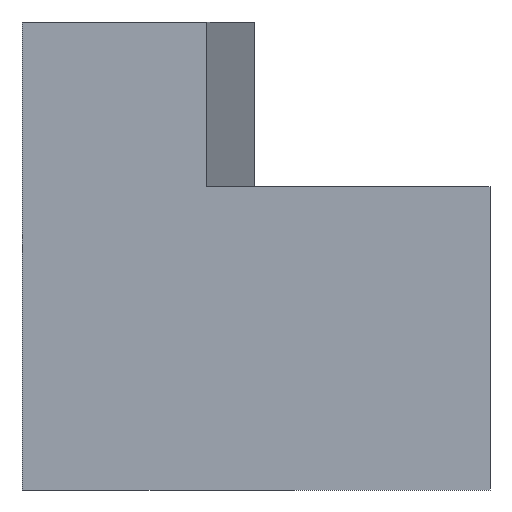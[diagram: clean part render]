
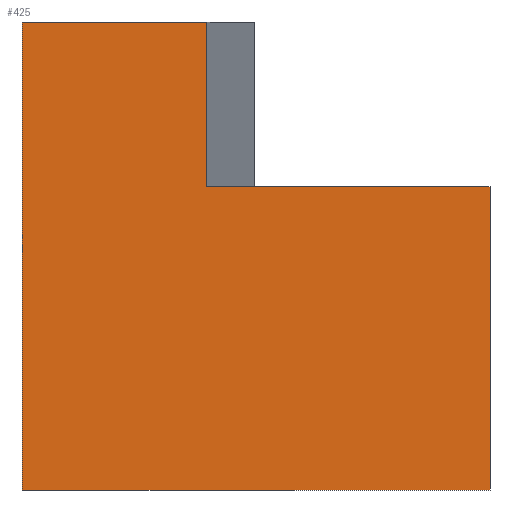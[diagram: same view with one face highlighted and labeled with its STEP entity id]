
A CAD part, left-side view. The second image highlights one B-rep face of the part: STEP entity #425.
In plain terms, the highlighted planar face has unit normal (-1, 0, 0).
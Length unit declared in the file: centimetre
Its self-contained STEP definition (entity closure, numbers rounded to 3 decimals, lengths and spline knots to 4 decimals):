
#2 = CARTESIAN_POINT ( 'NONE',  ( 0., 1000., 1000. ) ) ;
#11 = VECTOR ( 'NONE', #349, 100. ) ;
#22 = DIRECTION ( 'NONE',  ( 0., 0., 1. ) ) ;
#27 = ORIENTED_EDGE ( 'NONE', *, *, #352, .F. ) ;
#28 = LINE ( 'NONE', #37, #279 ) ;
#31 = VECTOR ( 'NONE', #108, 100. ) ;
#33 = CARTESIAN_POINT ( 'NONE',  ( 0., 604.765, 647.5081 ) ) ;
#34 = ORIENTED_EDGE ( 'NONE', *, *, #365, .F. ) ;
#37 = CARTESIAN_POINT ( 'NONE',  ( 0., 1000., 0. ) ) ;
#44 = FACE_OUTER_BOUND ( 'NONE', #338, .T. ) ;
#55 = VERTEX_POINT ( 'NONE', #93 ) ;
#64 = CARTESIAN_POINT ( 'NONE',  ( 0., 0., 0. ) ) ;
#70 = DIRECTION ( 'NONE',  ( 0., -1., 0. ) ) ;
#80 = PLANE ( 'NONE',  #359 ) ;
#83 = EDGE_CURVE ( 'NONE', #55, #487, #28, .T. ) ;
#86 = EDGE_CURVE ( 'NONE', #126, #441, #137, .T. ) ;
#93 = CARTESIAN_POINT ( 'NONE',  ( 0., 1000., 0. ) ) ;
#104 = LINE ( 'NONE', #145, #31 ) ;
#108 = DIRECTION ( 'NONE',  ( 0., 0., -1. ) ) ;
#117 = CARTESIAN_POINT ( 'NONE',  ( 0., 604.765, 647.5081 ) ) ;
#119 = EDGE_CURVE ( 'NONE', #251, #441, #133, .T. ) ;
#126 = VERTEX_POINT ( 'NONE', #33 ) ;
#133 = LINE ( 'NONE', #141, #150 ) ;
#137 = LINE ( 'NONE', #396, #346 ) ;
#141 = CARTESIAN_POINT ( 'NONE',  ( 0., 1000., 1000. ) ) ;
#145 = CARTESIAN_POINT ( 'NONE',  ( 0., 1000., 1000. ) ) ;
#150 = VECTOR ( 'NONE', #70, 100. ) ;
#155 = LINE ( 'NONE', #117, #264 ) ;
#204 = VERTEX_POINT ( 'NONE', #333 ) ;
#207 = DIRECTION ( 'NONE',  ( 0., -1., 0. ) ) ;
#213 = ORIENTED_EDGE ( 'NONE', *, *, #86, .T. ) ;
#220 = ORIENTED_EDGE ( 'NONE', *, *, #119, .F. ) ;
#224 = EDGE_CURVE ( 'NONE', #251, #55, #104, .T. ) ;
#236 = DIRECTION ( 'NONE',  ( 0., 0., -1. ) ) ;
#251 = VERTEX_POINT ( 'NONE', #419 ) ;
#264 = VECTOR ( 'NONE', #458, 100. ) ;
#268 = CARTESIAN_POINT ( 'NONE',  ( 0., 0., 1000. ) ) ;
#277 = CARTESIAN_POINT ( 'NONE',  ( 0., 604.765, 1000. ) ) ;
#279 = VECTOR ( 'NONE', #207, 100. ) ;
#306 = ORIENTED_EDGE ( 'NONE', *, *, #83, .T. ) ;
#333 = CARTESIAN_POINT ( 'NONE',  ( 0., 0., 647.5081 ) ) ;
#338 = EDGE_LOOP ( 'NONE', ( #34, #213, #220, #477, #306, #27 ) ) ;
#346 = VECTOR ( 'NONE', #22, 100. ) ;
#349 = DIRECTION ( 'NONE',  ( 0., 0., -1. ) ) ;
#351 = DIRECTION ( 'NONE',  ( 1., 0., 0. ) ) ;
#352 = EDGE_CURVE ( 'NONE', #204, #487, #415, .T. ) ;
#359 = AXIS2_PLACEMENT_3D ( 'NONE', #2, #351, #236 ) ;
#365 = EDGE_CURVE ( 'NONE', #126, #204, #155, .T. ) ;
#396 = CARTESIAN_POINT ( 'NONE',  ( 0., 604.765, 647.5081 ) ) ;
#415 = LINE ( 'NONE', #268, #11 ) ;
#419 = CARTESIAN_POINT ( 'NONE',  ( 0., 1000., 1000. ) ) ;
#425 = ADVANCED_FACE ( 'NONE', ( #44 ), #80, .F. ) ;
#441 = VERTEX_POINT ( 'NONE', #277 ) ;
#458 = DIRECTION ( 'NONE',  ( 0., -1., 0. ) ) ;
#477 = ORIENTED_EDGE ( 'NONE', *, *, #224, .T. ) ;
#487 = VERTEX_POINT ( 'NONE', #64 ) ;
